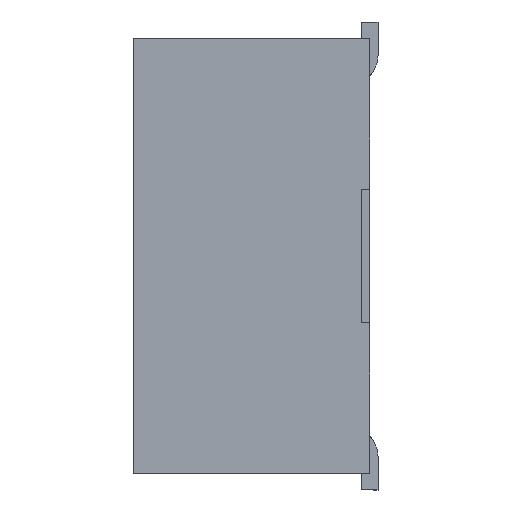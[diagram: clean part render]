
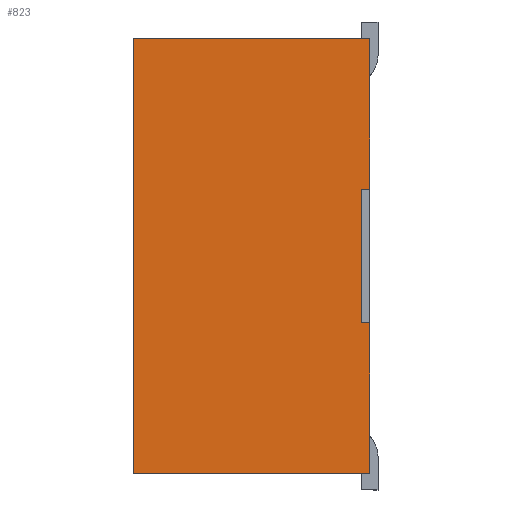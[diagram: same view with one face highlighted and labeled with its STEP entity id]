
A CAD part, left-side view. The second image highlights one B-rep face of the part: STEP entity #823.
In plain terms, the highlighted planar face has unit normal (-1, 0, 0).
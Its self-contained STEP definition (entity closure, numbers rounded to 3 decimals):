
#117 = CARTESIAN_POINT ( 'NONE',  ( -4.825, 0.05, 1.3 ) ) ;
#489 = CARTESIAN_POINT ( 'NONE',  ( -4.825, 0.1, 0.4 ) ) ;
#823 = ADVANCED_FACE ( 'NONE', ( #16510 ), #9225, .T. ) ;
#949 = VECTOR ( 'NONE', #2934, 1000. ) ;
#1123 = CARTESIAN_POINT ( 'NONE',  ( -4.825, 0.05, 1.3 ) ) ;
#1261 = LINE ( 'NONE', #2396, #7853 ) ;
#1474 = VECTOR ( 'NONE', #10783, 1000. ) ;
#1886 = LINE ( 'NONE', #4231, #1474 ) ;
#1992 = VECTOR ( 'NONE', #16115, 1000. ) ;
#1996 = VERTEX_POINT ( 'NONE', #15469 ) ;
#2099 = VERTEX_POINT ( 'NONE', #9894 ) ;
#2113 = VERTEX_POINT ( 'NONE', #117 ) ;
#2340 = CARTESIAN_POINT ( 'NONE',  ( -4.825, 1.46, 1.3 ) ) ;
#2396 = CARTESIAN_POINT ( 'NONE',  ( -4.825, 0.1, -0.4 ) ) ;
#2412 = DIRECTION ( 'NONE',  ( 0., 0., 1. ) ) ;
#2828 = VECTOR ( 'NONE', #6315, 1000. ) ;
#2934 = DIRECTION ( 'NONE',  ( 0., -1., 0. ) ) ;
#3015 = VERTEX_POINT ( 'NONE', #13219 ) ;
#3133 = ORIENTED_EDGE ( 'NONE', *, *, #12886, .T. ) ;
#3498 = LINE ( 'NONE', #13832, #5763 ) ;
#4137 = ORIENTED_EDGE ( 'NONE', *, *, #16599, .T. ) ;
#4231 = CARTESIAN_POINT ( 'NONE',  ( -4.825, 1.3, -1.3 ) ) ;
#5033 = DIRECTION ( 'NONE',  ( 0., -1., 0. ) ) ;
#5763 = VECTOR ( 'NONE', #10056, 1000. ) ;
#6180 = LINE ( 'NONE', #1123, #9304 ) ;
#6315 = DIRECTION ( 'NONE',  ( 0., 0., -1. ) ) ;
#6357 = LINE ( 'NONE', #2340, #2828 ) ;
#6624 = LINE ( 'NONE', #489, #16538 ) ;
#6653 = EDGE_CURVE ( 'NONE', #13388, #3015, #1886, .T. ) ;
#6898 = EDGE_CURVE ( 'NONE', #1996, #2099, #1261, .T. ) ;
#7124 = ORIENTED_EDGE ( 'NONE', *, *, #8755, .T. ) ;
#7532 = VERTEX_POINT ( 'NONE', #7797 ) ;
#7784 = ORIENTED_EDGE ( 'NONE', *, *, #14215, .F. ) ;
#7797 = CARTESIAN_POINT ( 'NONE',  ( -4.825, 0.05, 0.4 ) ) ;
#7853 = VECTOR ( 'NONE', #5033, 1000. ) ;
#8755 = EDGE_CURVE ( 'NONE', #9061, #3015, #6357, .T. ) ;
#9061 = VERTEX_POINT ( 'NONE', #10932 ) ;
#9194 = EDGE_LOOP ( 'NONE', ( #7124, #12060, #4137, #10226, #7784, #3133, #15288, #11481 ) ) ;
#9225 = PLANE ( 'NONE',  #10099 ) ;
#9304 = VECTOR ( 'NONE', #2412, 1000. ) ;
#9617 = CARTESIAN_POINT ( 'NONE',  ( -4.825, 0.1, 0.4 ) ) ;
#9894 = CARTESIAN_POINT ( 'NONE',  ( -4.825, 0.05, -0.4 ) ) ;
#10056 = DIRECTION ( 'NONE',  ( 0., -1., 0. ) ) ;
#10099 = AXIS2_PLACEMENT_3D ( 'NONE', #14334, #15074, #16830 ) ;
#10226 = ORIENTED_EDGE ( 'NONE', *, *, #6898, .F. ) ;
#10783 = DIRECTION ( 'NONE',  ( 0., 1., 0. ) ) ;
#10932 = CARTESIAN_POINT ( 'NONE',  ( -4.825, 1.46, 1.3 ) ) ;
#11481 = ORIENTED_EDGE ( 'NONE', *, *, #15301, .F. ) ;
#11787 = EDGE_CURVE ( 'NONE', #7532, #2113, #12400, .T. ) ;
#12060 = ORIENTED_EDGE ( 'NONE', *, *, #6653, .F. ) ;
#12307 = VERTEX_POINT ( 'NONE', #9617 ) ;
#12400 = LINE ( 'NONE', #14809, #1992 ) ;
#12886 = EDGE_CURVE ( 'NONE', #12307, #7532, #15177, .T. ) ;
#13219 = CARTESIAN_POINT ( 'NONE',  ( -4.825, 1.46, -1.3 ) ) ;
#13388 = VERTEX_POINT ( 'NONE', #14363 ) ;
#13832 = CARTESIAN_POINT ( 'NONE',  ( -4.825, 1.3, 1.3 ) ) ;
#14215 = EDGE_CURVE ( 'NONE', #12307, #1996, #6624, .T. ) ;
#14334 = CARTESIAN_POINT ( 'NONE',  ( -4.825, 0., 0. ) ) ;
#14363 = CARTESIAN_POINT ( 'NONE',  ( -4.825, 0.05, -1.3 ) ) ;
#14657 = CARTESIAN_POINT ( 'NONE',  ( -4.825, 0.1, 0.4 ) ) ;
#14809 = CARTESIAN_POINT ( 'NONE',  ( -4.825, 0.05, 1.3 ) ) ;
#15074 = DIRECTION ( 'NONE',  ( -1., 0., 0. ) ) ;
#15177 = LINE ( 'NONE', #14657, #949 ) ;
#15288 = ORIENTED_EDGE ( 'NONE', *, *, #11787, .T. ) ;
#15301 = EDGE_CURVE ( 'NONE', #9061, #2113, #3498, .T. ) ;
#15469 = CARTESIAN_POINT ( 'NONE',  ( -4.825, 0.1, -0.4 ) ) ;
#16039 = DIRECTION ( 'NONE',  ( 0., 0., -1. ) ) ;
#16115 = DIRECTION ( 'NONE',  ( 0., 0., 1. ) ) ;
#16510 = FACE_OUTER_BOUND ( 'NONE', #9194, .T. ) ;
#16538 = VECTOR ( 'NONE', #16039, 1000. ) ;
#16599 = EDGE_CURVE ( 'NONE', #13388, #2099, #6180, .T. ) ;
#16830 = DIRECTION ( 'NONE',  ( 0., 0., -1. ) ) ;
